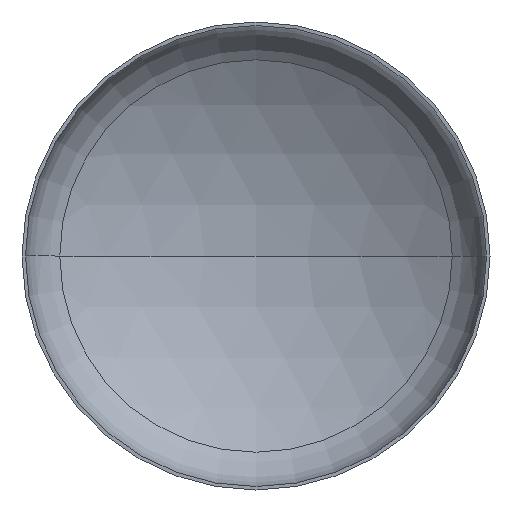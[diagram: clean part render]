
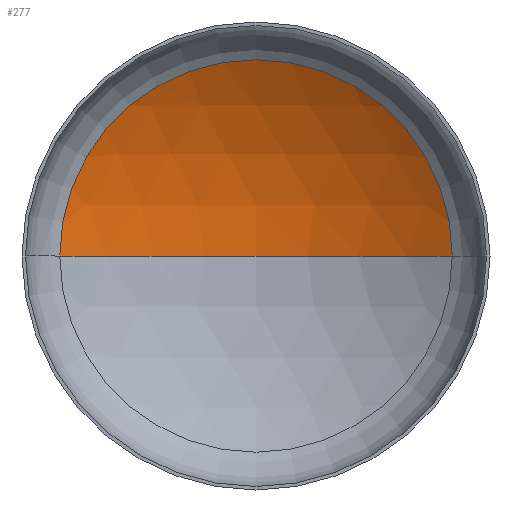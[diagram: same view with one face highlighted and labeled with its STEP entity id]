
A CAD part, front view. The second image highlights one B-rep face of the part: STEP entity #277.
In plain terms, the highlighted spherical face has radius 6000 mm.
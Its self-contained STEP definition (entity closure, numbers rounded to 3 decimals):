
#11 = DIRECTION ( 'NONE',  ( 0., 0., -1. ) ) ;
#18 = VERTEX_POINT ( 'NONE', #280 ) ;
#30 = ORIENTED_EDGE ( 'NONE', *, *, #233, .F. ) ;
#52 = CARTESIAN_POINT ( 'NONE',  ( 0., -4006.44, 0. ) ) ;
#53 = AXIS2_PLACEMENT_3D ( 'NONE', #52, #11, #60 ) ;
#57 = VERTEX_POINT ( 'NONE', #244 ) ;
#60 = DIRECTION ( 'NONE',  ( -1., 0., 0. ) ) ;
#66 = SPHERICAL_SURFACE ( 'NONE', #53, 6000. ) ;
#93 = AXIS2_PLACEMENT_3D ( 'NONE', #259, #230, #228 ) ;
#105 = AXIS2_PLACEMENT_3D ( 'NONE', #255, #254, #251 ) ;
#110 = AXIS2_PLACEMENT_3D ( 'NONE', #174, #177, #200 ) ;
#115 = EDGE_LOOP ( 'NONE', ( #30, #125, #130 ) ) ;
#121 = VERTEX_POINT ( 'NONE', #332 ) ;
#125 = ORIENTED_EDGE ( 'NONE', *, *, #229, .T. ) ;
#130 = ORIENTED_EDGE ( 'NONE', *, *, #225, .T. ) ;
#174 = CARTESIAN_POINT ( 'NONE',  ( 0., 1103.702, 0. ) ) ;
#177 = DIRECTION ( 'NONE',  ( 0., -1., 0. ) ) ;
#199 = CIRCLE ( 'NONE', #105, 6000. ) ;
#200 = DIRECTION ( 'NONE',  ( 1., 0., 0. ) ) ;
#225 = EDGE_CURVE ( 'NONE', #18, #57, #282, .T. ) ;
#228 = DIRECTION ( 'NONE',  ( 1., 0., 0. ) ) ;
#229 = EDGE_CURVE ( 'NONE', #121, #18, #199, .T. ) ;
#230 = DIRECTION ( 'NONE',  ( 0., 0., 1. ) ) ;
#233 = EDGE_CURVE ( 'NONE', #121, #57, #276, .T. ) ;
#244 = CARTESIAN_POINT ( 'NONE',  ( -3144.272, 1103.702, 0. ) ) ;
#251 = DIRECTION ( 'NONE',  ( -1., 0., 0. ) ) ;
#254 = DIRECTION ( 'NONE',  ( 0., 0., -1. ) ) ;
#255 = CARTESIAN_POINT ( 'NONE',  ( 0., -4006.44, 0. ) ) ;
#259 = CARTESIAN_POINT ( 'NONE',  ( 0., -4006.44, 0. ) ) ;
#276 = CIRCLE ( 'NONE', #93, 6000. ) ;
#277 = ADVANCED_FACE ( 'NONE', ( #328 ), #66, .F. ) ;
#280 = CARTESIAN_POINT ( 'NONE',  ( 3144.272, 1103.702, 0. ) ) ;
#282 = CIRCLE ( 'NONE', #110, 3144.272 ) ;
#328 = FACE_OUTER_BOUND ( 'NONE', #115, .T. ) ;
#332 = CARTESIAN_POINT ( 'NONE',  ( 0., 1993.56, 0. ) ) ;
